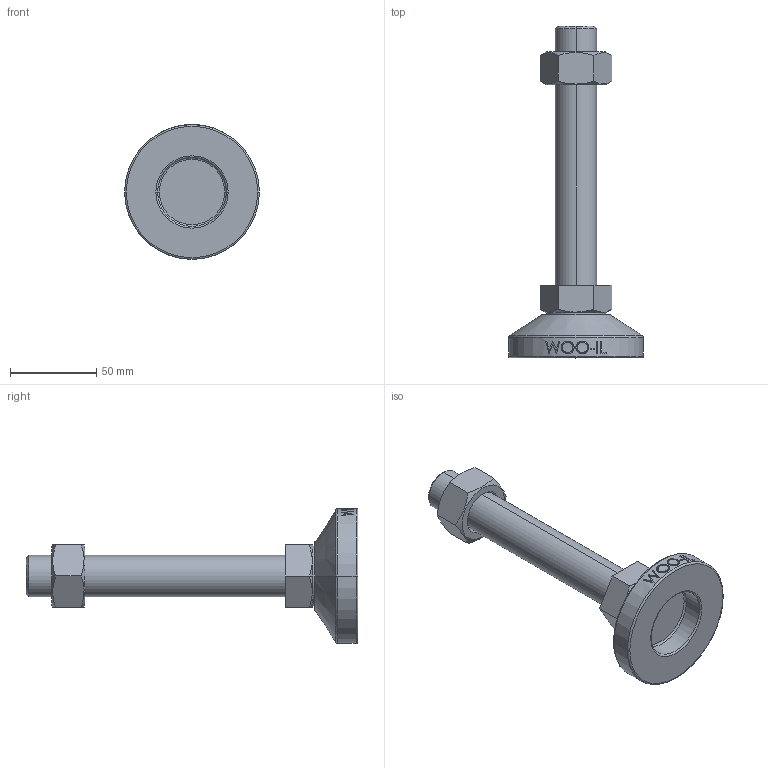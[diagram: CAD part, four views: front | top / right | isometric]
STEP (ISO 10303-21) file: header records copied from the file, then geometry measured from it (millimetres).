
FILE_DESCRIPTION (( 'STEP AP214' ), '1' );
FILE_NAME ('MF78-M24-150.step', '2021-02-03T08:22:23', ( '' ), ( '' ), 'SwSTEP 2.0', 'SolidWorks 2019', '' );
FILE_SCHEMA (( 'AUTOMOTIVE_DESIGN' ));
Length unit declared in the file: millimetre
Products named in the file (2): MF78-M24-150
Bounding box: 78 x 192 x 78 mm (x, y, z)
Volume: 177962.3 mm3; surface area: 35024.4 mm2
Topology: 3 solids, 3 shells, 106 faces, 247 edges, 158 vertices
Faces by surface type: plane 48, cylinder 18, bspline 16, cone 14, torus 10
Entity records: 4588 total; most frequent: CARTESIAN_POINT 2225, ORIENTED_EDGE 494, DIRECTION 439, EDGE_CURVE 247, AXIS2_PLACEMENT_3D 170, VERTEX_POINT 158, EDGE_LOOP 119, FACE_OUTER_BOUND 106
